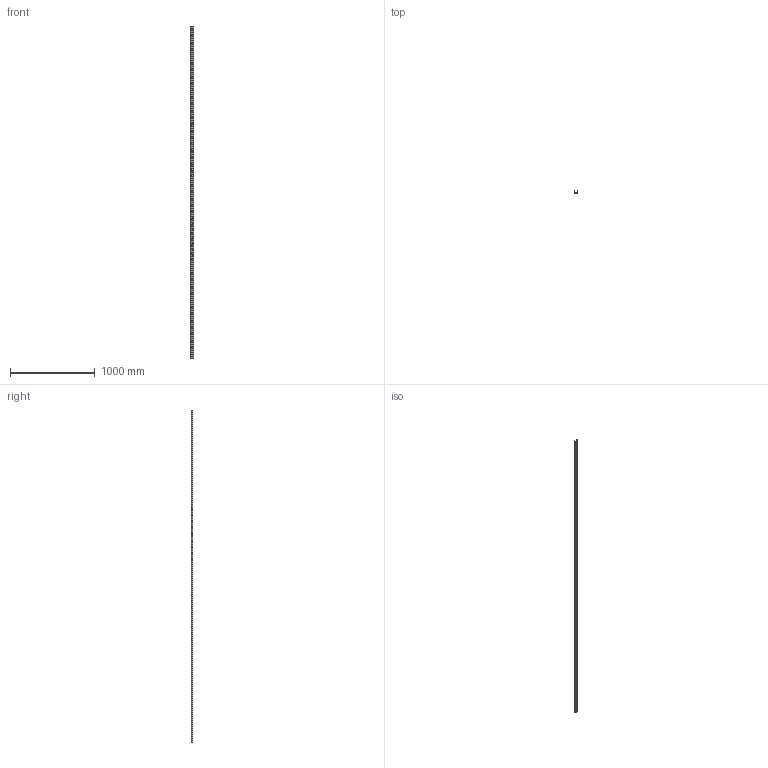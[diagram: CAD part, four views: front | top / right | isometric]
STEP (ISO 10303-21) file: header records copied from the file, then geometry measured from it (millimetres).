
FILE_DESCRIPTION(('STEP AP214'),'1');
FILE_NAME('rail_tex40-3920.stp','2019-03-08T08:34:30',('TraceParts'),('TraceParts S.A.'),'Spatial InterOp 3D',' ',' ');
FILE_SCHEMA(('automotive_design'));
Length unit declared in the file: millimetre
Products named in the file (1): rail_tex40-3920
Bounding box: 39.53 x 21 x 3920 mm (x, y, z)
Volume: 766426.8 mm3; surface area: 539675.1 mm2
Topology: 1 solids, 1 shells, 842 faces, 2181 edges, 1454 vertices
Faces by surface type: plane 593, bspline 139, cylinder 110
Entity records: 53700 total; most frequent: CARTESIAN_POINT 26829, ORIENTED_EDGE 4362, DIRECTION 3531, EDGE_CURVE 2181, LINE 1683, VECTOR 1683, VERTEX_POINT 1454, EDGE_LOOP 1053
